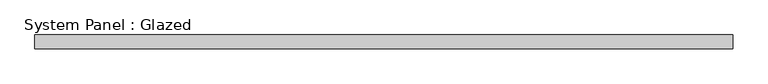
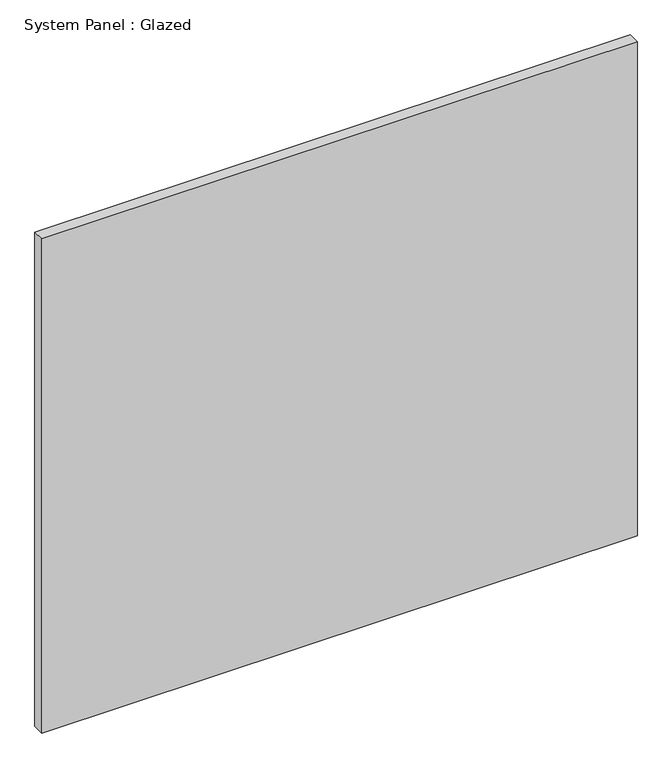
"""IFC4 building model written with IfcOpenShell, lengths in millimetres: plate geometry, System Panel : Glazed."""

from ifc_helpers import new_model, si_unit, origin, origin_with_axes, place, context, project, spatial, polyline, outline, extrude, source, transform, mapped, element, save


def system_panel_glazed_02b69887(model_context):
    return source(origin(), model_context, "Body", "SweptSolid", [
        extrude(outline(polyline([(640.9972222, 19.05), (-640.9972222, 19.05), (-640.9972222, 44.45), (640.9972222, 44.45), (640.9972222, 19.05)])), origin_with_axes(), (0.0, 0.0, 1.0), 1123.95),
    ])


if __name__ == "__main__":
    model = new_model("IFC4")
    model_context = context("Model", 3, world=origin())
    ifc_project = project(units=[si_unit("LENGTHUNIT", "METRE", prefix="MILLI")], contexts=[model_context])
    site = spatial("IfcSite", under=ifc_project)
    building = spatial("IfcBuilding", under=site)
    placement = place(None, origin())
    system_panel_glazed_shape = system_panel_glazed_02b69887(model_context)
    element("IfcPlate", 1, ObjectType="System Panel : Glazed", at=placement, inside=building, context=model_context, shape_type="MappedRepresentation", body=[
        mapped(system_panel_glazed_shape, transform((0.0, 0.0, 0.0), x_axis=(1.0, 0.0, 0.0), y_axis=(0.0, 1.0, 0.0), z_axis=(0.0, 0.0, 1.0))),
    ])
    save(model, "model.ifc")
